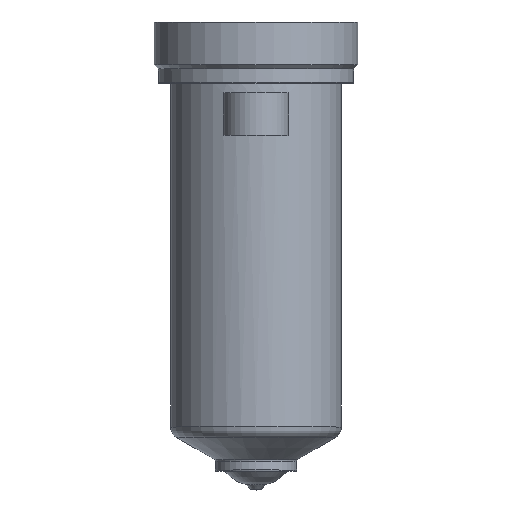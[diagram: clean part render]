
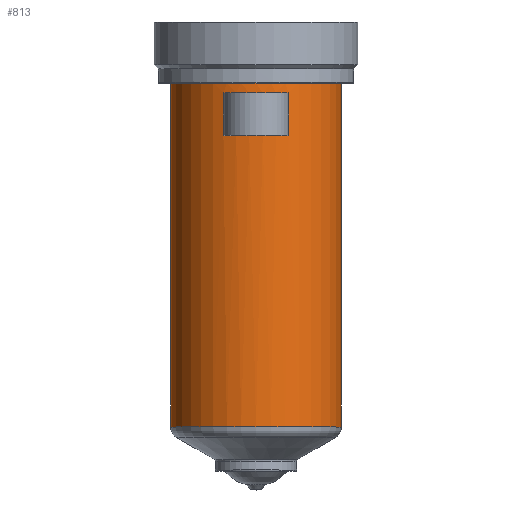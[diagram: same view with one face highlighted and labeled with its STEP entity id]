
A CAD part, top view. The second image highlights one B-rep face of the part: STEP entity #813.
In plain terms, the highlighted cylindrical face has radius 21 mm (diameter 42 mm), a partial arc.
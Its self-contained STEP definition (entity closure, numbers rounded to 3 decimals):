
#199=DIRECTION('',(0.,-1.,0.));
#200=VECTOR('',#199,84.528);
#201=CARTESIAN_POINT('',(21.,0.,0.));
#202=LINE('',#201,#200);
#203=CARTESIAN_POINT('',(0.,-84.528,0.));
#204=DIRECTION('',(0.,1.,0.));
#205=DIRECTION('',(-1.,0.,0.));
#206=AXIS2_PLACEMENT_3D('',#203,#204,#205);
#208=DIRECTION('',(0.,1.,0.));
#209=VECTOR('',#208,84.528);
#210=CARTESIAN_POINT('',(-21.,-84.528,0.));
#211=LINE('',#210,#209);
#212=CARTESIAN_POINT('',(0.,0.,0.));
#213=DIRECTION('',(0.,1.,0.));
#214=DIRECTION('',(-1.,0.,0.));
#215=AXIS2_PLACEMENT_3D('',#212,#213,#214);
#379=DIRECTION('',(0.,-1.,0.));
#380=VECTOR('',#379,10.5);
#381=CARTESIAN_POINT('',(-8.,-2.5,19.416));
#382=LINE('',#381,#380);
#383=CARTESIAN_POINT('',(0.,-13.,0.));
#384=DIRECTION('',(0.,1.,0.));
#385=DIRECTION('',(-0.381,0.,0.925));
#386=AXIS2_PLACEMENT_3D('',#383,#384,#385);
#409=CARTESIAN_POINT('',(0.,-2.5,0.));
#410=DIRECTION('',(0.,-1.,0.));
#411=DIRECTION('',(0.381,0.,0.925));
#412=AXIS2_PLACEMENT_3D('',#409,#410,#411);
#427=DIRECTION('',(0.,-1.,0.));
#428=VECTOR('',#427,10.5);
#429=CARTESIAN_POINT('',(8.,-2.5,19.416));
#430=LINE('',#429,#428);
#488=CARTESIAN_POINT('',(-21.,0.,0.));
#489=CARTESIAN_POINT('',(21.,0.,0.));
#490=VERTEX_POINT('',#488);
#491=VERTEX_POINT('',#489);
#500=CARTESIAN_POINT('',(-8.,-2.5,19.416));
#501=VERTEX_POINT('',#500);
#502=CARTESIAN_POINT('',(8.,-2.5,19.416));
#503=VERTEX_POINT('',#502);
#540=CARTESIAN_POINT('',(21.,-84.528,0.));
#541=VERTEX_POINT('',#540);
#550=CARTESIAN_POINT('',(-21.,-84.528,0.));
#551=VERTEX_POINT('',#550);
#572=CARTESIAN_POINT('',(-8.,-13.,19.416));
#573=CARTESIAN_POINT('',(8.,-13.,19.416));
#574=VERTEX_POINT('',#572);
#575=VERTEX_POINT('',#573);
#791=CARTESIAN_POINT('',(0.,16.4,0.));
#792=DIRECTION('',(0.,-1.,0.));
#793=DIRECTION('',(-1.,0.,0.));
#794=AXIS2_PLACEMENT_3D('',#791,#792,#793);
#795=CYLINDRICAL_SURFACE('',#794,21.);
#796=ORIENTED_EDGE('',*,*,#785,.T.);
#798=ORIENTED_EDGE('',*,*,#797,.F.);
#799=ORIENTED_EDGE('',*,*,#781,.T.);
#800=ORIENTED_EDGE('',*,*,#771,.T.);
#801=EDGE_LOOP('',(#796,#798,#799,#800));
#802=FACE_OUTER_BOUND('',#801,.F.);
#804=ORIENTED_EDGE('',*,*,#803,.T.);
#806=ORIENTED_EDGE('',*,*,#805,.T.);
#808=ORIENTED_EDGE('',*,*,#807,.F.);
#810=ORIENTED_EDGE('',*,*,#809,.T.);
#811=EDGE_LOOP('',(#804,#806,#808,#810));
#812=FACE_BOUND('',#811,.F.);
#813=ADVANCED_FACE('',(#802,#812),#795,.T.);
#207=CIRCLE('',#206,21.);
#216=CIRCLE('',#215,21.);
#387=CIRCLE('',#386,21.);
#413=CIRCLE('',#412,21.);
#771=EDGE_CURVE('',#490,#491,#216,.T.);
#781=EDGE_CURVE('',#551,#490,#211,.T.);
#785=EDGE_CURVE('',#491,#541,#202,.T.);
#797=EDGE_CURVE('',#551,#541,#207,.T.);
#803=EDGE_CURVE('',#501,#574,#382,.T.);
#805=EDGE_CURVE('',#574,#575,#387,.T.);
#807=EDGE_CURVE('',#503,#575,#430,.T.);
#809=EDGE_CURVE('',#503,#501,#413,.T.);
